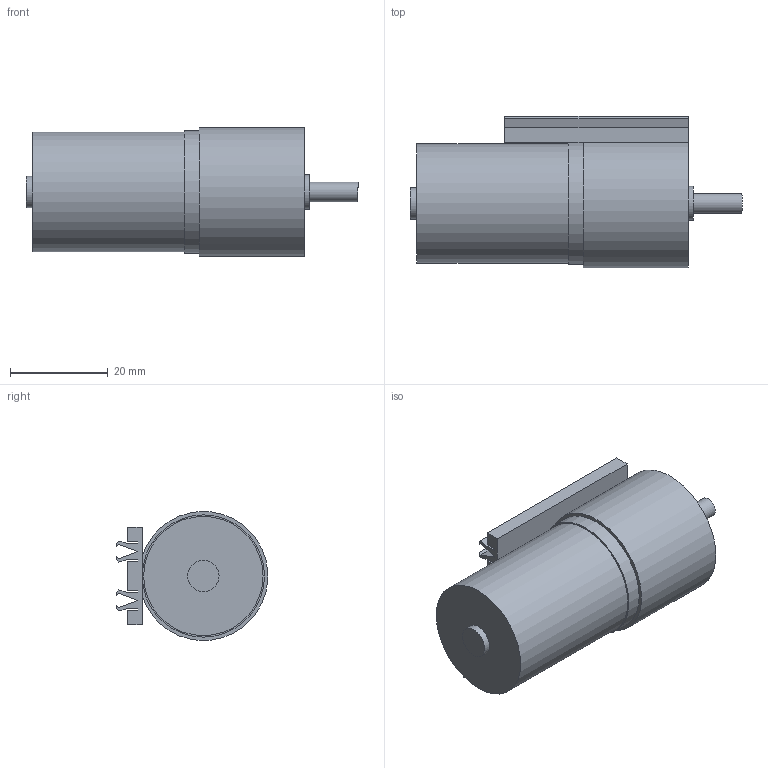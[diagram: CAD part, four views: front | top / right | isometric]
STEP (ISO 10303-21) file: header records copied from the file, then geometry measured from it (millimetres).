
FILE_DESCRIPTION(/* description */ (''),/* implementation_level */ '2;1');
FILE_NAME(/* name */ 'C:/Users/priba/Documents/Temp/mrm-bldc20x40-6.5Holder.step',/* time_stamp */ '2019-11-01T23:20:05+01:00',/* author */ (''),/* organization */ (''),/* preprocessor_version */ 'ST-DEVELOPER v18',/* originating_system */ 'Autodesk Translation Framework v8.9.1.1155',/* authorisation */ '');
FILE_SCHEMA (('AUTOMOTIVE_DESIGN { 1 0 10303 214 3 1 1 }'));
Length unit declared in the file: millimetre
Products named in the file (2): mrm-bldc20x40-6.5Holder; mrm-bdc24-100
Assembly tree (1 placements, depth 2):
  mrm-bldc20x40-6.5Holder
    mrm-bdc24-100
Bounding box: 67.9 x 30.96 x 26.37 mm (x, y, z)
Volume: 29813.3 mm3; surface area: 13403 mm2
Topology: 2 solids, 9 shells, 102 faces, 243 edges, 165 vertices
Faces by surface type: plane 90, cylinder 12
Full cylindrical faces by diameter (mm): 3 x4, 4 x1, 6.4 x1, 7 x1, 7.8 x1, 24.4 x1, 25 x2
Entity records: 2986 total; most frequent: CARTESIAN_POINT 513, DIRECTION 488, ORIENTED_EDGE 486, EDGE_CURVE 243, LINE 208, VECTOR 208, VERTEX_POINT 165, AXIS2_PLACEMENT_3D 140
